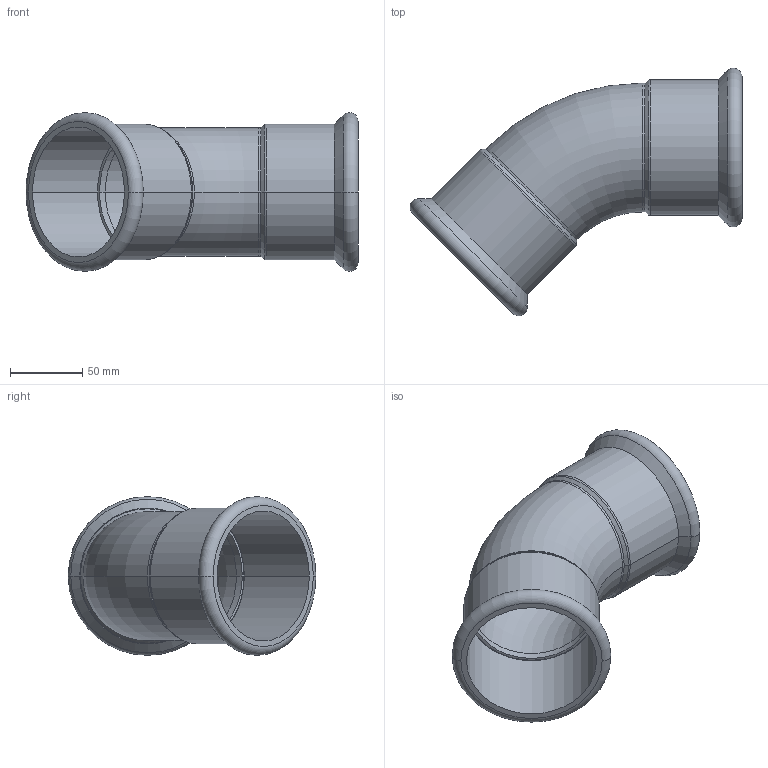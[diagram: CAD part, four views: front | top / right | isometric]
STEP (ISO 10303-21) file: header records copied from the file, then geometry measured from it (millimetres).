
FILE_DESCRIPTION(('CoCreate Modeling STEP Export'),'2;1');
FILE_NAME('C1413 88.9x88.9.stp','2014-11-11T16:52:35',(''),(''),'CoCreate Modeling STEP processor for AP214 (Solid Model)','CoCreate Modeling 17.00A 17-Jun-2010 (C) Parametric Technology GmbH','');
FILE_SCHEMA(('AUTOMOTIVE_DESIGN { 1 0 10303 214 1 1 1 1 }'));
Length unit declared in the file: millimetre
Products named in the file (2): C1413_89x89
Assembly tree (1 placements, depth 2):
  C1413_89x89
    C1413_89x89
Bounding box: 229.12 x 170.86 x 109.48 mm (x, y, z)
Volume: 184539.8 mm3; surface area: 134634.1 mm2
Topology: 1 solids, 1 shells, 46 faces, 97 edges, 57 vertices
Faces by surface type: cylinder 20, torus 12, cone 8, plane 6
Entity records: 1050 total; most frequent: ORIENTED_EDGE 194, DIRECTION 164, CARTESIAN_POINT 153, EDGE_CURVE 97, AXIS2_PLACEMENT_3D 68, VERTEX_POINT 57, EDGE_LOOP 52, FACE_OUTER_BOUND 46
